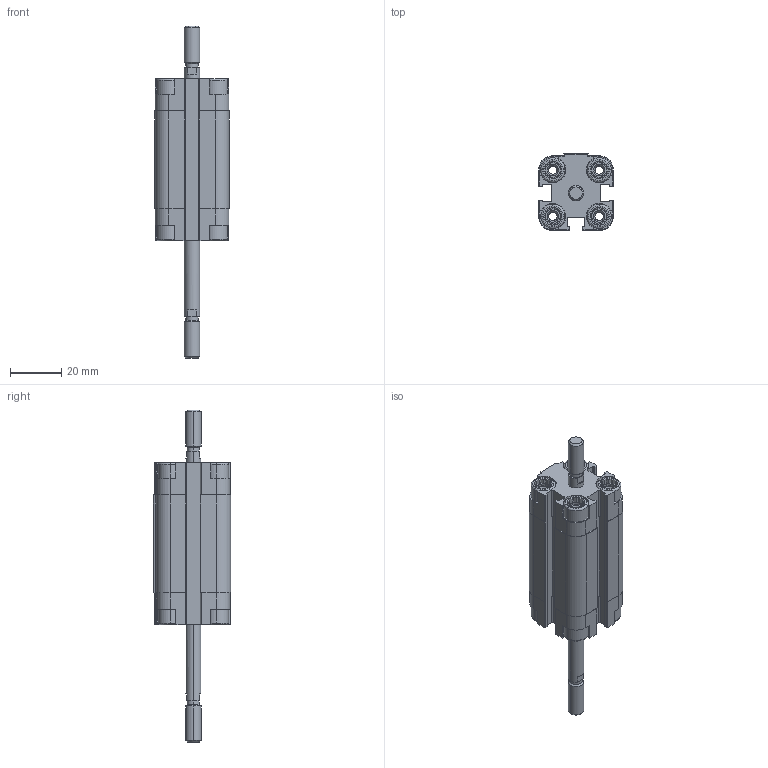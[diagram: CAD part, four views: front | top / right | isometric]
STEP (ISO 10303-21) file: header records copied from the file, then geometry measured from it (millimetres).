
FILE_DESCRIPTION (( 'STEP AP203' ), '1' );
FILE_NAME ('CDVU12-25M-P.STEP', '2020-07-21T14:56:20', ( '' ), ( '' ), 'SwSTEP 2.0', 'SolidWorks 2019', '' );
FILE_SCHEMA (( 'CONFIG_CONTROL_DESIGN' ));
Length unit declared in the file: millimetre
Products named in the file (1): CDVU12-25M-P
Bounding box: 29 x 30 x 129 mm (x, y, z)
Volume: 39489.7 mm3; surface area: 20761 mm2
Topology: 2 solids, 2 shells, 566 faces, 1504 edges, 978 vertices
Faces by surface type: plane 338, cylinder 164, cone 48, torus 16
Entity records: 17771 total; most frequent: CARTESIAN_POINT 3621, ORIENTED_EDGE 3000, DIRECTION 2850, EDGE_CURVE 1500, VERTEX_POINT 978, AXIS2_PLACEMENT_3D 975, LINE 900, VECTOR 900
